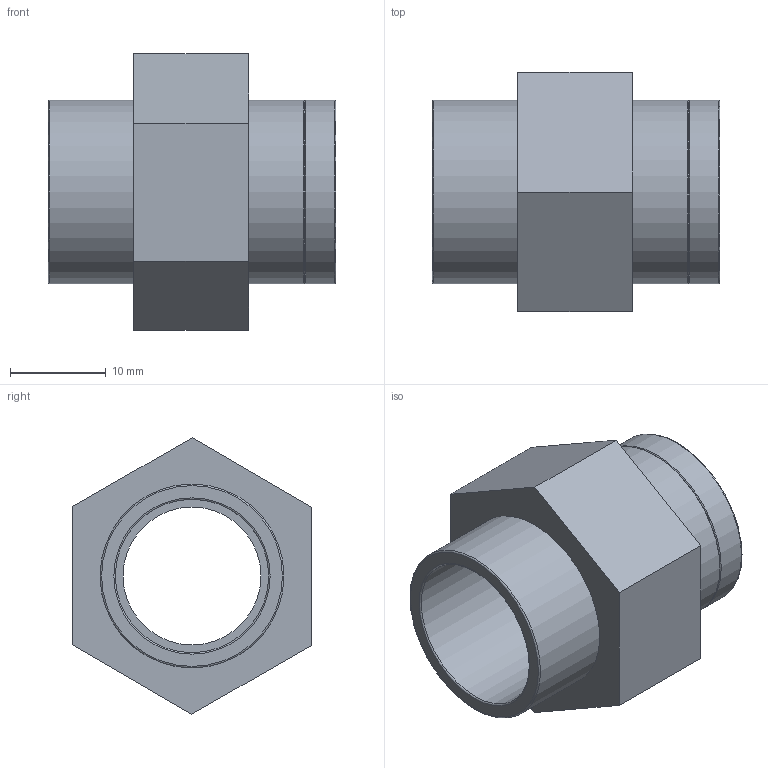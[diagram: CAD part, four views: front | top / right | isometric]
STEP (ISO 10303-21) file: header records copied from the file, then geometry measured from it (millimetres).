
FILE_DESCRIPTION(/* description */ ('PLASSON AD. SOCKET REINF.PVC 16-3/8"'),/* implementation_level */ '2;1');
FILE_NAME(/* name */ 'C:\Dropbox\KIMPROJECTS-Inventor\99-16-3568-Processing\PVC Catalog 2017\057102\057102016003.ipt.stp',/* time_stamp */ '2017-12-07T16:05:21+02:00',/* author */ ('KIM'),/* organization */ (''),/* preprocessor_version */ 'ST-DEVELOPER v15.6',/* originating_system */ 'Autodesk Inventor 2015',/* authorisation */ '');
FILE_SCHEMA (('AUTOMOTIVE_DESIGN { 1 0 10303 214 3 1 1 }'));
Length unit declared in the file: millimetre
Products named in the file (1): 057102016003
Bounding box: 30 x 25.04 x 28.87 mm (x, y, z)
Volume: 6119.5 mm3; surface area: 4321.7 mm2
Topology: 1 solids, 1 shells, 24 faces, 47 edges, 29 vertices
Faces by surface type: plane 12, cylinder 6, torus 4, cone 2
Full cylindrical faces by diameter (mm): 14.4 x1, 14.95 x1, 16 x1, 19.2 x3
Entity records: 580 total; most frequent: DIRECTION 102, CARTESIAN_POINT 89, ORIENTED_EDGE 70, EDGE_LOOP 42, AXIS2_PLACEMENT_3D 42, EDGE_CURVE 35, VERTEX_POINT 29, FACE_OUTER_BOUND 24
